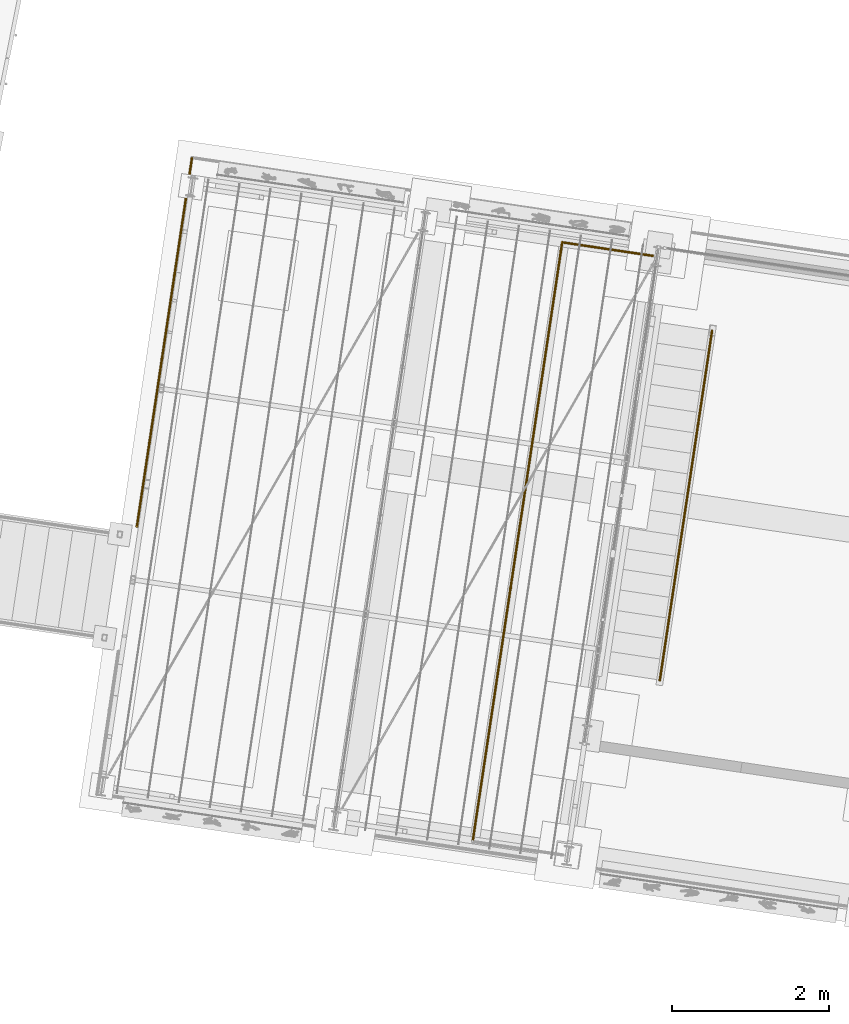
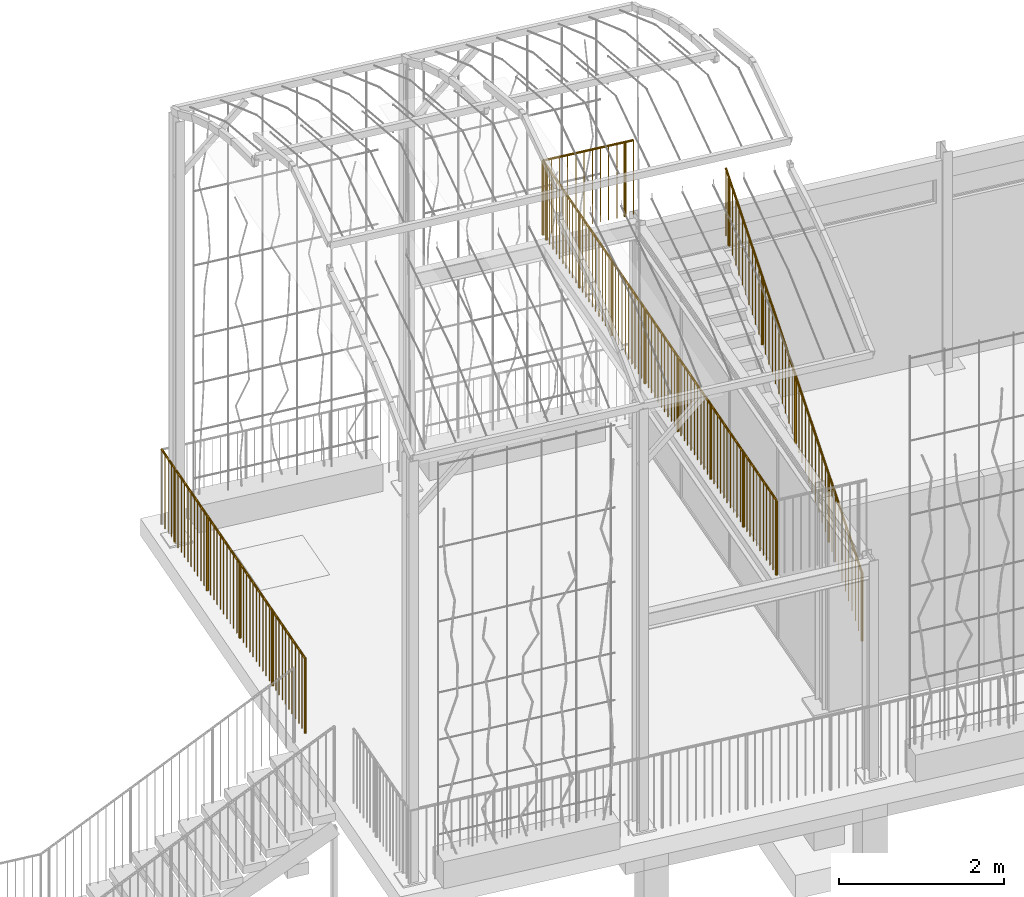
# One storey, part 138 of 142: 4 railings, 3 elements without a shape of their own.
"""IFC4 building model written with IfcOpenShell, lengths in metres."""

from ifc_helpers import new_model, si_unit, direction, frame, origin_with_axes, place, context, subcontext, project, spatial, circle, extrude, material, element, aggregate, save


model = new_model("IFC4")

# Units and contexts
model_context = context("Model", 3, precision=1e-05, world=origin_with_axes(), true_north=direction((0.0, 1.0)))
body_context = subcontext(model_context, "Body", "Model", "MODEL_VIEW")
ifc_project = project(units=[si_unit("AREAUNIT", "SQUARE_METRE"), si_unit("VOLUMEUNIT", "CUBIC_METRE"), si_unit("LENGTHUNIT", "METRE")], contexts=[model_context])

# Site, building, storey
site_placement = place(None, origin_with_axes())
site = spatial("IfcSite", under=ifc_project, at=site_placement, Name="Lares · Rua das Mercês · artigo 4771")
building_placement = place(site_placement, frame((15.0, 9.7, 14.65), z_axis=(0.0, 0.0, 1.0), x_axis=(0.989015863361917, -0.147809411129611, 0.0)))
building = spatial("IfcBuilding", under=site, at=building_placement, Name="Casa Sobreposta")
storey_placement = place(building_placement, origin_with_axes())
storey = spatial("IfcBuildingStorey", under=building, at=storey_placement, Name="00 · Habitação e estacionamento", Elevation=14.65)

# Stair, railing
stair_placement = place(storey_placement, origin_with_axes())
stair = element("IfcStair", 1, at=stair_placement, inside=storey, Name="Escada sala", PredefinedType="STRAIGHT_RUN_STAIR")
ifc_material = material(Name="Aço pintado / Stahl lackiert", Category="steel")
railing_1_placement = place(stair_placement, origin_with_axes())
railing_1 = element("IfcRailing", 2, at=railing_1_placement, material=ifc_material, Name="Corrimão sala", PredefinedType="GUARDRAIL", context=body_context, shape_type="SweptSolid", body=[
    extrude(circle(Radius=0.015), frame((0.83, 0.9475, 1.18), z_axis=(0.0, 0.827216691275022, 0.561883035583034), x_axis=(1.0, 0.0, 0.0)), (0.0, 0.0, 1.0), 5.44597328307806),
    extrude(circle(Radius=0.0175), frame((0.83, 0.9475, 0.18), z_axis=(0.0, 0.0, 1.0), x_axis=(1.0, 0.0, 0.0)), (0.0, 0.0, 1.0), 1.0),
    extrude(circle(Radius=0.006), frame((0.83, 1.05737804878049, 0.254634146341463), z_axis=(0.0, 0.0, 1.0), x_axis=(1.0, 0.0, 0.0)), (0.0, 0.0, 1.0), 1.0),
    extrude(circle(Radius=0.006), frame((0.83, 1.16725609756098, 0.329268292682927), z_axis=(0.0, 0.0, 1.0), x_axis=(1.0, 0.0, 0.0)), (0.0, 0.0, 1.0), 1.0),
    extrude(circle(Radius=0.006), frame((0.83, 1.27713414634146, 0.40390243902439), z_axis=(0.0, 0.0, 1.0), x_axis=(1.0, 0.0, 0.0)), (0.0, 0.0, 1.0), 1.0),
    extrude(circle(Radius=0.006), frame((0.83, 1.38701219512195, 0.478536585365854), z_axis=(0.0, 0.0, 1.0), x_axis=(1.0, 0.0, 0.0)), (0.0, 0.0, 1.0), 1.0),
    extrude(circle(Radius=0.006), frame((0.83, 1.49689024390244, 0.553170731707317), z_axis=(0.0, 0.0, 1.0), x_axis=(1.0, 0.0, 0.0)), (0.0, 0.0, 1.0), 1.0),
    extrude(circle(Radius=0.006), frame((0.83, 1.60676829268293, 0.62780487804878), z_axis=(0.0, 0.0, 1.0), x_axis=(1.0, 0.0, 0.0)), (0.0, 0.0, 1.0), 1.0),
    extrude(circle(Radius=0.006), frame((0.83, 1.71664634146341, 0.702439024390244), z_axis=(0.0, 0.0, 1.0), x_axis=(1.0, 0.0, 0.0)), (0.0, 0.0, 1.0), 1.0),
    extrude(circle(Radius=0.006), frame((0.83, 1.8265243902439, 0.777073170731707), z_axis=(0.0, 0.0, 1.0), x_axis=(1.0, 0.0, 0.0)), (0.0, 0.0, 1.0), 1.0),
    extrude(circle(Radius=0.006), frame((0.83, 1.93640243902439, 0.851707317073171), z_axis=(0.0, 0.0, 1.0), x_axis=(1.0, 0.0, 0.0)), (0.0, 0.0, 1.0), 1.0),
    extrude(circle(Radius=0.0175), frame((0.83, 2.04628048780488, 0.926341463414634), z_axis=(0.0, 0.0, 1.0), x_axis=(1.0, 0.0, 0.0)), (0.0, 0.0, 1.0), 1.0),
    extrude(circle(Radius=0.006), frame((0.83, 2.15615853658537, 1.0009756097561), z_axis=(0.0, 0.0, 1.0), x_axis=(1.0, 0.0, 0.0)), (0.0, 0.0, 1.0), 1.0),
    extrude(circle(Radius=0.006), frame((0.83, 2.26603658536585, 1.07560975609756), z_axis=(0.0, 0.0, 1.0), x_axis=(1.0, 0.0, 0.0)), (0.0, 0.0, 1.0), 1.0),
    extrude(circle(Radius=0.006), frame((0.83, 2.37591463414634, 1.15024390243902), z_axis=(0.0, 0.0, 1.0), x_axis=(1.0, 0.0, 0.0)), (0.0, 0.0, 1.0), 1.0),
    extrude(circle(Radius=0.006), frame((0.83, 2.48579268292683, 1.22487804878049), z_axis=(0.0, 0.0, 1.0), x_axis=(1.0, 0.0, 0.0)), (0.0, 0.0, 1.0), 1.0),
    extrude(circle(Radius=0.006), frame((0.83, 2.59567073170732, 1.29951219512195), z_axis=(0.0, 0.0, 1.0), x_axis=(1.0, 0.0, 0.0)), (0.0, 0.0, 1.0), 1.0),
    extrude(circle(Radius=0.006), frame((0.83, 2.7055487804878, 1.37414634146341), z_axis=(0.0, 0.0, 1.0), x_axis=(1.0, 0.0, 0.0)), (0.0, 0.0, 1.0), 1.0),
    extrude(circle(Radius=0.006), frame((0.83, 2.81542682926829, 1.44878048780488), z_axis=(0.0, 0.0, 1.0), x_axis=(1.0, 0.0, 0.0)), (0.0, 0.0, 1.0), 1.0),
    extrude(circle(Radius=0.006), frame((0.83, 2.92530487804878, 1.52341463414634), z_axis=(0.0, 0.0, 1.0), x_axis=(1.0, 0.0, 0.0)), (0.0, 0.0, 1.0), 1.0),
    extrude(circle(Radius=0.006), frame((0.83, 3.03518292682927, 1.5980487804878), z_axis=(0.0, 0.0, 1.0), x_axis=(1.0, 0.0, 0.0)), (0.0, 0.0, 1.0), 1.0),
    extrude(circle(Radius=0.0175), frame((0.83, 3.14506097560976, 1.67268292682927), z_axis=(0.0, 0.0, 1.0), x_axis=(1.0, 0.0, 0.0)), (0.0, 0.0, 1.0), 1.0),
    extrude(circle(Radius=0.006), frame((0.83, 3.25493902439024, 1.74731707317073), z_axis=(0.0, 0.0, 1.0), x_axis=(1.0, 0.0, 0.0)), (0.0, 0.0, 1.0), 1.0),
    extrude(circle(Radius=0.006), frame((0.83, 3.36481707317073, 1.8219512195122), z_axis=(0.0, 0.0, 1.0), x_axis=(1.0, 0.0, 0.0)), (0.0, 0.0, 1.0), 1.0),
    extrude(circle(Radius=0.006), frame((0.83, 3.47469512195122, 1.89658536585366), z_axis=(0.0, 0.0, 1.0), x_axis=(1.0, 0.0, 0.0)), (0.0, 0.0, 1.0), 1.0),
    extrude(circle(Radius=0.006), frame((0.83, 3.58457317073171, 1.97121951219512), z_axis=(0.0, 0.0, 1.0), x_axis=(1.0, 0.0, 0.0)), (0.0, 0.0, 1.0), 1.0),
    extrude(circle(Radius=0.006), frame((0.83, 3.6944512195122, 2.04585365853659), z_axis=(0.0, 0.0, 1.0), x_axis=(1.0, 0.0, 0.0)), (0.0, 0.0, 1.0), 1.0),
    extrude(circle(Radius=0.006), frame((0.83, 3.80432926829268, 2.12048780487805), z_axis=(0.0, 0.0, 1.0), x_axis=(1.0, 0.0, 0.0)), (0.0, 0.0, 1.0), 1.0),
    extrude(circle(Radius=0.006), frame((0.83, 3.91420731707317, 2.19512195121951), z_axis=(0.0, 0.0, 1.0), x_axis=(1.0, 0.0, 0.0)), (0.0, 0.0, 1.0), 1.0),
    extrude(circle(Radius=0.006), frame((0.83, 4.02408536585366, 2.26975609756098), z_axis=(0.0, 0.0, 1.0), x_axis=(1.0, 0.0, 0.0)), (0.0, 0.0, 1.0), 1.0),
    extrude(circle(Radius=0.006), frame((0.83, 4.13396341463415, 2.34439024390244), z_axis=(0.0, 0.0, 1.0), x_axis=(1.0, 0.0, 0.0)), (0.0, 0.0, 1.0), 1.0),
    extrude(circle(Radius=0.0175), frame((0.83, 4.24384146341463, 2.4190243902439), z_axis=(0.0, 0.0, 1.0), x_axis=(1.0, 0.0, 0.0)), (0.0, 0.0, 1.0), 1.0),
    extrude(circle(Radius=0.006), frame((0.83, 4.35371951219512, 2.49365853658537), z_axis=(0.0, 0.0, 1.0), x_axis=(1.0, 0.0, 0.0)), (0.0, 0.0, 1.0), 1.0),
    extrude(circle(Radius=0.006), frame((0.83, 4.46359756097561, 2.56829268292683), z_axis=(0.0, 0.0, 1.0), x_axis=(1.0, 0.0, 0.0)), (0.0, 0.0, 1.0), 1.0),
    extrude(circle(Radius=0.006), frame((0.83, 4.5734756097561, 2.64292682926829), z_axis=(0.0, 0.0, 1.0), x_axis=(1.0, 0.0, 0.0)), (0.0, 0.0, 1.0), 1.0),
    extrude(circle(Radius=0.006), frame((0.83, 4.68335365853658, 2.71756097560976), z_axis=(0.0, 0.0, 1.0), x_axis=(1.0, 0.0, 0.0)), (0.0, 0.0, 1.0), 1.0),
    extrude(circle(Radius=0.006), frame((0.83, 4.79323170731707, 2.79219512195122), z_axis=(0.0, 0.0, 1.0), x_axis=(1.0, 0.0, 0.0)), (0.0, 0.0, 1.0), 1.0),
    extrude(circle(Radius=0.006), frame((0.83, 4.90310975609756, 2.86682926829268), z_axis=(0.0, 0.0, 1.0), x_axis=(1.0, 0.0, 0.0)), (0.0, 0.0, 1.0), 1.0),
    extrude(circle(Radius=0.006), frame((0.83, 5.01298780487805, 2.94146341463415), z_axis=(0.0, 0.0, 1.0), x_axis=(1.0, 0.0, 0.0)), (0.0, 0.0, 1.0), 1.0),
    extrude(circle(Radius=0.006), frame((0.83, 5.12286585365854, 3.01609756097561), z_axis=(0.0, 0.0, 1.0), x_axis=(1.0, 0.0, 0.0)), (0.0, 0.0, 1.0), 1.0),
    extrude(circle(Radius=0.006), frame((0.83, 5.23274390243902, 3.09073170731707), z_axis=(0.0, 0.0, 1.0), x_axis=(1.0, 0.0, 0.0)), (0.0, 0.0, 1.0), 1.0),
    extrude(circle(Radius=0.0175), frame((0.83, 5.34262195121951, 3.16536585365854), z_axis=(0.0, 0.0, 1.0), x_axis=(1.0, 0.0, 0.0)), (0.0, 0.0, 1.0), 1.0),
    extrude(circle(Radius=0.006), frame((0.83, 5.4525, 3.24), z_axis=(0.0, 0.0, 1.0), x_axis=(1.0, 0.0, 0.0)), (0.0, 0.0, 1.0), 1.0),
])
aggregate(stair, [railing_1])

# Assembly, railing
assembly_1_placement = place(storey_placement, origin_with_axes())
assembly_1 = element("IfcElementAssembly", 3, at=assembly_1_placement, inside=storey, Name="Pódio · terraço, casa térrea e cisterna", ObjectType="CISTERN_PODIUM", PredefinedType="USERDEFINED")
railing_2_placement = place(assembly_1_placement, origin_with_axes())
railing_2 = element("IfcRailing", 4, at=railing_2_placement, material=ifc_material, Name="Pódio · guarda poente norte", PredefinedType="GUARDRAIL", context=body_context, shape_type="SweptSolid", body=[
    extrude(circle(Radius=0.015), frame((-6.05, 1.9, 1.06), z_axis=(0.0, 1.0, 0.0), x_axis=(1.0, 0.0, 0.0)), (0.0, 0.0, 1.0), 4.75),
    extrude(circle(Radius=0.0175), frame((-6.05, 1.9, -0.04), z_axis=(0.0, 0.0, 1.0), x_axis=(1.0, 0.0, 0.0)), (0.0, 0.0, 1.0), 1.1),
    extrude(circle(Radius=0.006), frame((-6.05, 2.00795454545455, -0.04), z_axis=(0.0, 0.0, 1.0), x_axis=(1.0, 0.0, 0.0)), (0.0, 0.0, 1.0), 1.1),
    extrude(circle(Radius=0.006), frame((-6.05, 2.11590909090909, -0.04), z_axis=(0.0, 0.0, 1.0), x_axis=(1.0, 0.0, 0.0)), (0.0, 0.0, 1.0), 1.1),
    extrude(circle(Radius=0.006), frame((-6.05, 2.22386363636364, -0.04), z_axis=(0.0, 0.0, 1.0), x_axis=(1.0, 0.0, 0.0)), (0.0, 0.0, 1.0), 1.1),
    extrude(circle(Radius=0.006), frame((-6.05, 2.33181818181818, -0.04), z_axis=(0.0, 0.0, 1.0), x_axis=(1.0, 0.0, 0.0)), (0.0, 0.0, 1.0), 1.1),
    extrude(circle(Radius=0.006), frame((-6.05, 2.43977272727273, -0.04), z_axis=(0.0, 0.0, 1.0), x_axis=(1.0, 0.0, 0.0)), (0.0, 0.0, 1.0), 1.1),
    extrude(circle(Radius=0.006), frame((-6.05, 2.54772727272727, -0.04), z_axis=(0.0, 0.0, 1.0), x_axis=(1.0, 0.0, 0.0)), (0.0, 0.0, 1.0), 1.1),
    extrude(circle(Radius=0.006), frame((-6.05, 2.65568181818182, -0.04), z_axis=(0.0, 0.0, 1.0), x_axis=(1.0, 0.0, 0.0)), (0.0, 0.0, 1.0), 1.1),
    extrude(circle(Radius=0.006), frame((-6.05, 2.76363636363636, -0.04), z_axis=(0.0, 0.0, 1.0), x_axis=(1.0, 0.0, 0.0)), (0.0, 0.0, 1.0), 1.1),
    extrude(circle(Radius=0.006), frame((-6.05, 2.87159090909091, -0.04), z_axis=(0.0, 0.0, 1.0), x_axis=(1.0, 0.0, 0.0)), (0.0, 0.0, 1.0), 1.1),
    extrude(circle(Radius=0.0175), frame((-6.05, 2.97954545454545, -0.04), z_axis=(0.0, 0.0, 1.0), x_axis=(1.0, 0.0, 0.0)), (0.0, 0.0, 1.0), 1.1),
    extrude(circle(Radius=0.006), frame((-6.05, 3.0875, -0.04), z_axis=(0.0, 0.0, 1.0), x_axis=(1.0, 0.0, 0.0)), (0.0, 0.0, 1.0), 1.1),
    extrude(circle(Radius=0.006), frame((-6.05, 3.19545454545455, -0.04), z_axis=(0.0, 0.0, 1.0), x_axis=(1.0, 0.0, 0.0)), (0.0, 0.0, 1.0), 1.1),
    extrude(circle(Radius=0.006), frame((-6.05, 3.30340909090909, -0.04), z_axis=(0.0, 0.0, 1.0), x_axis=(1.0, 0.0, 0.0)), (0.0, 0.0, 1.0), 1.1),
    extrude(circle(Radius=0.006), frame((-6.05, 3.41136363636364, -0.04), z_axis=(0.0, 0.0, 1.0), x_axis=(1.0, 0.0, 0.0)), (0.0, 0.0, 1.0), 1.1),
    extrude(circle(Radius=0.006), frame((-6.05, 3.51931818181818, -0.04), z_axis=(0.0, 0.0, 1.0), x_axis=(1.0, 0.0, 0.0)), (0.0, 0.0, 1.0), 1.1),
    extrude(circle(Radius=0.006), frame((-6.05, 3.62727272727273, -0.04), z_axis=(0.0, 0.0, 1.0), x_axis=(1.0, 0.0, 0.0)), (0.0, 0.0, 1.0), 1.1),
    extrude(circle(Radius=0.006), frame((-6.05, 3.73522727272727, -0.04), z_axis=(0.0, 0.0, 1.0), x_axis=(1.0, 0.0, 0.0)), (0.0, 0.0, 1.0), 1.1),
    extrude(circle(Radius=0.006), frame((-6.05, 3.84318181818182, -0.04), z_axis=(0.0, 0.0, 1.0), x_axis=(1.0, 0.0, 0.0)), (0.0, 0.0, 1.0), 1.1),
    extrude(circle(Radius=0.006), frame((-6.05, 3.95113636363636, -0.04), z_axis=(0.0, 0.0, 1.0), x_axis=(1.0, 0.0, 0.0)), (0.0, 0.0, 1.0), 1.1),
    extrude(circle(Radius=0.0175), frame((-6.05, 4.05909090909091, -0.04), z_axis=(0.0, 0.0, 1.0), x_axis=(1.0, 0.0, 0.0)), (0.0, 0.0, 1.0), 1.1),
    extrude(circle(Radius=0.006), frame((-6.05, 4.16704545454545, -0.04), z_axis=(0.0, 0.0, 1.0), x_axis=(1.0, 0.0, 0.0)), (0.0, 0.0, 1.0), 1.1),
    extrude(circle(Radius=0.006), frame((-6.05, 4.275, -0.04), z_axis=(0.0, 0.0, 1.0), x_axis=(1.0, 0.0, 0.0)), (0.0, 0.0, 1.0), 1.1),
    extrude(circle(Radius=0.006), frame((-6.05, 4.38295454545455, -0.04), z_axis=(0.0, 0.0, 1.0), x_axis=(1.0, 0.0, 0.0)), (0.0, 0.0, 1.0), 1.1),
    extrude(circle(Radius=0.006), frame((-6.05, 4.49090909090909, -0.04), z_axis=(0.0, 0.0, 1.0), x_axis=(1.0, 0.0, 0.0)), (0.0, 0.0, 1.0), 1.1),
    extrude(circle(Radius=0.006), frame((-6.05, 4.59886363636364, -0.04), z_axis=(0.0, 0.0, 1.0), x_axis=(1.0, 0.0, 0.0)), (0.0, 0.0, 1.0), 1.1),
    extrude(circle(Radius=0.006), frame((-6.05, 4.70681818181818, -0.04), z_axis=(0.0, 0.0, 1.0), x_axis=(1.0, 0.0, 0.0)), (0.0, 0.0, 1.0), 1.1),
    extrude(circle(Radius=0.006), frame((-6.05, 4.81477272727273, -0.04), z_axis=(0.0, 0.0, 1.0), x_axis=(1.0, 0.0, 0.0)), (0.0, 0.0, 1.0), 1.1),
    extrude(circle(Radius=0.006), frame((-6.05, 4.92272727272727, -0.04), z_axis=(0.0, 0.0, 1.0), x_axis=(1.0, 0.0, 0.0)), (0.0, 0.0, 1.0), 1.1),
    extrude(circle(Radius=0.006), frame((-6.05, 5.03068181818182, -0.04), z_axis=(0.0, 0.0, 1.0), x_axis=(1.0, 0.0, 0.0)), (0.0, 0.0, 1.0), 1.1),
    extrude(circle(Radius=0.0175), frame((-6.05, 5.13863636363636, -0.04), z_axis=(0.0, 0.0, 1.0), x_axis=(1.0, 0.0, 0.0)), (0.0, 0.0, 1.0), 1.1),
    extrude(circle(Radius=0.006), frame((-6.05, 5.24659090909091, -0.04), z_axis=(0.0, 0.0, 1.0), x_axis=(1.0, 0.0, 0.0)), (0.0, 0.0, 1.0), 1.1),
    extrude(circle(Radius=0.006), frame((-6.05, 5.35454545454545, -0.04), z_axis=(0.0, 0.0, 1.0), x_axis=(1.0, 0.0, 0.0)), (0.0, 0.0, 1.0), 1.1),
    extrude(circle(Radius=0.006), frame((-6.05, 5.4625, -0.04), z_axis=(0.0, 0.0, 1.0), x_axis=(1.0, 0.0, 0.0)), (0.0, 0.0, 1.0), 1.1),
    extrude(circle(Radius=0.006), frame((-6.05, 5.57045454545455, -0.04), z_axis=(0.0, 0.0, 1.0), x_axis=(1.0, 0.0, 0.0)), (0.0, 0.0, 1.0), 1.1),
    extrude(circle(Radius=0.006), frame((-6.05, 5.67840909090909, -0.04), z_axis=(0.0, 0.0, 1.0), x_axis=(1.0, 0.0, 0.0)), (0.0, 0.0, 1.0), 1.1),
    extrude(circle(Radius=0.006), frame((-6.05, 5.78636363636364, -0.04), z_axis=(0.0, 0.0, 1.0), x_axis=(1.0, 0.0, 0.0)), (0.0, 0.0, 1.0), 1.1),
    extrude(circle(Radius=0.006), frame((-6.05, 5.89431818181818, -0.04), z_axis=(0.0, 0.0, 1.0), x_axis=(1.0, 0.0, 0.0)), (0.0, 0.0, 1.0), 1.1),
    extrude(circle(Radius=0.006), frame((-6.05, 6.00227272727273, -0.04), z_axis=(0.0, 0.0, 1.0), x_axis=(1.0, 0.0, 0.0)), (0.0, 0.0, 1.0), 1.1),
    extrude(circle(Radius=0.006), frame((-6.05, 6.11022727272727, -0.04), z_axis=(0.0, 0.0, 1.0), x_axis=(1.0, 0.0, 0.0)), (0.0, 0.0, 1.0), 1.1),
    extrude(circle(Radius=0.0175), frame((-6.05, 6.21818181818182, -0.04), z_axis=(0.0, 0.0, 1.0), x_axis=(1.0, 0.0, 0.0)), (0.0, 0.0, 1.0), 1.1),
    extrude(circle(Radius=0.006), frame((-6.05, 6.32613636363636, -0.04), z_axis=(0.0, 0.0, 1.0), x_axis=(1.0, 0.0, 0.0)), (0.0, 0.0, 1.0), 1.1),
    extrude(circle(Radius=0.006), frame((-6.05, 6.43409090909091, -0.04), z_axis=(0.0, 0.0, 1.0), x_axis=(1.0, 0.0, 0.0)), (0.0, 0.0, 1.0), 1.1),
    extrude(circle(Radius=0.006), frame((-6.05, 6.54204545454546, -0.04), z_axis=(0.0, 0.0, 1.0), x_axis=(1.0, 0.0, 0.0)), (0.0, 0.0, 1.0), 1.1),
    extrude(circle(Radius=0.006), frame((-6.05, 6.65, -0.04), z_axis=(0.0, 0.0, 1.0), x_axis=(1.0, 0.0, 0.0)), (0.0, 0.0, 1.0), 1.1),
])
aggregate(assembly_1, [railing_2])

# Assembly, railings
assembly_2_placement = place(storey_placement, origin_with_axes())
assembly_2 = element("IfcElementAssembly", 5, at=assembly_2_placement, inside=storey, Name="Pérgola · prolongamento da estufa 6 m", ObjectType="PERGOLA_GREENHOUSE_EXTENSION", PredefinedType="USERDEFINED")
railing_3_placement = place(assembly_2_placement, origin_with_axes())
railing_3 = element("IfcRailing", 6, at=railing_3_placement, material=ifc_material, Name="Varanda · guarda", PredefinedType="GUARDRAIL", context=body_context, shape_type="SweptSolid", body=[
    extrude(circle(Radius=0.015), frame((-1.225, -1.44, 4.34), z_axis=(0.0, 1.0, 0.0), x_axis=(1.0, 0.0, 0.0)), (0.0, 0.0, 1.0), 7.72),
    extrude(circle(Radius=0.0175), frame((-1.225, -1.44, 3.24), z_axis=(0.0, 0.0, 1.0), x_axis=(1.0, 0.0, 0.0)), (0.0, 0.0, 1.0), 1.1),
    extrude(circle(Radius=0.006), frame((-1.225, -1.3312676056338, 3.24), z_axis=(0.0, 0.0, 1.0), x_axis=(1.0, 0.0, 0.0)), (0.0, 0.0, 1.0), 1.1),
    extrude(circle(Radius=0.006), frame((-1.225, -1.22253521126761, 3.24), z_axis=(0.0, 0.0, 1.0), x_axis=(1.0, 0.0, 0.0)), (0.0, 0.0, 1.0), 1.1),
    extrude(circle(Radius=0.006), frame((-1.225, -1.11380281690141, 3.24), z_axis=(0.0, 0.0, 1.0), x_axis=(1.0, 0.0, 0.0)), (0.0, 0.0, 1.0), 1.1),
    extrude(circle(Radius=0.006), frame((-1.225, -1.00507042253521, 3.24), z_axis=(0.0, 0.0, 1.0), x_axis=(1.0, 0.0, 0.0)), (0.0, 0.0, 1.0), 1.1),
    extrude(circle(Radius=0.006), frame((-1.225, -0.896338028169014, 3.24), z_axis=(0.0, 0.0, 1.0), x_axis=(1.0, 0.0, 0.0)), (0.0, 0.0, 1.0), 1.1),
    extrude(circle(Radius=0.006), frame((-1.225, -0.787605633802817, 3.24), z_axis=(0.0, 0.0, 1.0), x_axis=(1.0, 0.0, 0.0)), (0.0, 0.0, 1.0), 1.1),
    extrude(circle(Radius=0.006), frame((-1.225, -0.67887323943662, 3.24), z_axis=(0.0, 0.0, 1.0), x_axis=(1.0, 0.0, 0.0)), (0.0, 0.0, 1.0), 1.1),
    extrude(circle(Radius=0.006), frame((-1.225, -0.570140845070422, 3.24), z_axis=(0.0, 0.0, 1.0), x_axis=(1.0, 0.0, 0.0)), (0.0, 0.0, 1.0), 1.1),
    extrude(circle(Radius=0.006), frame((-1.225, -0.461408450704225, 3.24), z_axis=(0.0, 0.0, 1.0), x_axis=(1.0, 0.0, 0.0)), (0.0, 0.0, 1.0), 1.1),
    extrude(circle(Radius=0.0175), frame((-1.225, -0.352676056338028, 3.24), z_axis=(0.0, 0.0, 1.0), x_axis=(1.0, 0.0, 0.0)), (0.0, 0.0, 1.0), 1.1),
    extrude(circle(Radius=0.006), frame((-1.225, -0.243943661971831, 3.24), z_axis=(0.0, 0.0, 1.0), x_axis=(1.0, 0.0, 0.0)), (0.0, 0.0, 1.0), 1.1),
    extrude(circle(Radius=0.006), frame((-1.225, -0.135211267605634, 3.24), z_axis=(0.0, 0.0, 1.0), x_axis=(1.0, 0.0, 0.0)), (0.0, 0.0, 1.0), 1.1),
    extrude(circle(Radius=0.006), frame((-1.225, -0.0264788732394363, 3.24), z_axis=(0.0, 0.0, 1.0), x_axis=(1.0, 0.0, 0.0)), (0.0, 0.0, 1.0), 1.1),
    extrude(circle(Radius=0.006), frame((-1.225, 0.0822535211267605, 3.24), z_axis=(0.0, 0.0, 1.0), x_axis=(1.0, 0.0, 0.0)), (0.0, 0.0, 1.0), 1.1),
    extrude(circle(Radius=0.006), frame((-1.225, 0.190985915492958, 3.24), z_axis=(0.0, 0.0, 1.0), x_axis=(1.0, 0.0, 0.0)), (0.0, 0.0, 1.0), 1.1),
    extrude(circle(Radius=0.006), frame((-1.225, 0.299718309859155, 3.24), z_axis=(0.0, 0.0, 1.0), x_axis=(1.0, 0.0, 0.0)), (0.0, 0.0, 1.0), 1.1),
    extrude(circle(Radius=0.006), frame((-1.225, 0.408450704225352, 3.24), z_axis=(0.0, 0.0, 1.0), x_axis=(1.0, 0.0, 0.0)), (0.0, 0.0, 1.0), 1.1),
    extrude(circle(Radius=0.006), frame((-1.225, 0.51718309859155, 3.24), z_axis=(0.0, 0.0, 1.0), x_axis=(1.0, 0.0, 0.0)), (0.0, 0.0, 1.0), 1.1),
    extrude(circle(Radius=0.006), frame((-1.225, 0.625915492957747, 3.24), z_axis=(0.0, 0.0, 1.0), x_axis=(1.0, 0.0, 0.0)), (0.0, 0.0, 1.0), 1.1),
    extrude(circle(Radius=0.0175), frame((-1.225, 0.734647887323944, 3.24), z_axis=(0.0, 0.0, 1.0), x_axis=(1.0, 0.0, 0.0)), (0.0, 0.0, 1.0), 1.1),
    extrude(circle(Radius=0.006), frame((-1.225, 0.843380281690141, 3.24), z_axis=(0.0, 0.0, 1.0), x_axis=(1.0, 0.0, 0.0)), (0.0, 0.0, 1.0), 1.1),
    extrude(circle(Radius=0.006), frame((-1.225, 0.952112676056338, 3.24), z_axis=(0.0, 0.0, 1.0), x_axis=(1.0, 0.0, 0.0)), (0.0, 0.0, 1.0), 1.1),
    extrude(circle(Radius=0.006), frame((-1.225, 1.06084507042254, 3.24), z_axis=(0.0, 0.0, 1.0), x_axis=(1.0, 0.0, 0.0)), (0.0, 0.0, 1.0), 1.1),
    extrude(circle(Radius=0.006), frame((-1.225, 1.16957746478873, 3.24), z_axis=(0.0, 0.0, 1.0), x_axis=(1.0, 0.0, 0.0)), (0.0, 0.0, 1.0), 1.1),
    extrude(circle(Radius=0.006), frame((-1.225, 1.27830985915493, 3.24), z_axis=(0.0, 0.0, 1.0), x_axis=(1.0, 0.0, 0.0)), (0.0, 0.0, 1.0), 1.1),
    extrude(circle(Radius=0.006), frame((-1.225, 1.38704225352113, 3.24), z_axis=(0.0, 0.0, 1.0), x_axis=(1.0, 0.0, 0.0)), (0.0, 0.0, 1.0), 1.1),
    extrude(circle(Radius=0.006), frame((-1.225, 1.49577464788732, 3.24), z_axis=(0.0, 0.0, 1.0), x_axis=(1.0, 0.0, 0.0)), (0.0, 0.0, 1.0), 1.1),
    extrude(circle(Radius=0.006), frame((-1.225, 1.60450704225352, 3.24), z_axis=(0.0, 0.0, 1.0), x_axis=(1.0, 0.0, 0.0)), (0.0, 0.0, 1.0), 1.1),
    extrude(circle(Radius=0.006), frame((-1.225, 1.71323943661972, 3.24), z_axis=(0.0, 0.0, 1.0), x_axis=(1.0, 0.0, 0.0)), (0.0, 0.0, 1.0), 1.1),
    extrude(circle(Radius=0.0175), frame((-1.225, 1.82197183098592, 3.24), z_axis=(0.0, 0.0, 1.0), x_axis=(1.0, 0.0, 0.0)), (0.0, 0.0, 1.0), 1.1),
    extrude(circle(Radius=0.006), frame((-1.225, 1.93070422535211, 3.24), z_axis=(0.0, 0.0, 1.0), x_axis=(1.0, 0.0, 0.0)), (0.0, 0.0, 1.0), 1.1),
    extrude(circle(Radius=0.006), frame((-1.225, 2.03943661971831, 3.24), z_axis=(0.0, 0.0, 1.0), x_axis=(1.0, 0.0, 0.0)), (0.0, 0.0, 1.0), 1.1),
    extrude(circle(Radius=0.006), frame((-1.225, 2.14816901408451, 3.24), z_axis=(0.0, 0.0, 1.0), x_axis=(1.0, 0.0, 0.0)), (0.0, 0.0, 1.0), 1.1),
    extrude(circle(Radius=0.006), frame((-1.225, 2.2569014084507, 3.24), z_axis=(0.0, 0.0, 1.0), x_axis=(1.0, 0.0, 0.0)), (0.0, 0.0, 1.0), 1.1),
    extrude(circle(Radius=0.006), frame((-1.225, 2.3656338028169, 3.24), z_axis=(0.0, 0.0, 1.0), x_axis=(1.0, 0.0, 0.0)), (0.0, 0.0, 1.0), 1.1),
    extrude(circle(Radius=0.006), frame((-1.225, 2.4743661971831, 3.24), z_axis=(0.0, 0.0, 1.0), x_axis=(1.0, 0.0, 0.0)), (0.0, 0.0, 1.0), 1.1),
    extrude(circle(Radius=0.006), frame((-1.225, 2.5830985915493, 3.24), z_axis=(0.0, 0.0, 1.0), x_axis=(1.0, 0.0, 0.0)), (0.0, 0.0, 1.0), 1.1),
    extrude(circle(Radius=0.006), frame((-1.225, 2.69183098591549, 3.24), z_axis=(0.0, 0.0, 1.0), x_axis=(1.0, 0.0, 0.0)), (0.0, 0.0, 1.0), 1.1),
    extrude(circle(Radius=0.006), frame((-1.225, 2.80056338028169, 3.24), z_axis=(0.0, 0.0, 1.0), x_axis=(1.0, 0.0, 0.0)), (0.0, 0.0, 1.0), 1.1),
    extrude(circle(Radius=0.0175), frame((-1.225, 2.90929577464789, 3.24), z_axis=(0.0, 0.0, 1.0), x_axis=(1.0, 0.0, 0.0)), (0.0, 0.0, 1.0), 1.1),
    extrude(circle(Radius=0.006), frame((-1.225, 3.01802816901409, 3.24), z_axis=(0.0, 0.0, 1.0), x_axis=(1.0, 0.0, 0.0)), (0.0, 0.0, 1.0), 1.1),
    extrude(circle(Radius=0.006), frame((-1.225, 3.12676056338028, 3.24), z_axis=(0.0, 0.0, 1.0), x_axis=(1.0, 0.0, 0.0)), (0.0, 0.0, 1.0), 1.1),
    extrude(circle(Radius=0.006), frame((-1.225, 3.23549295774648, 3.24), z_axis=(0.0, 0.0, 1.0), x_axis=(1.0, 0.0, 0.0)), (0.0, 0.0, 1.0), 1.1),
    extrude(circle(Radius=0.006), frame((-1.225, 3.34422535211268, 3.24), z_axis=(0.0, 0.0, 1.0), x_axis=(1.0, 0.0, 0.0)), (0.0, 0.0, 1.0), 1.1),
    extrude(circle(Radius=0.006), frame((-1.225, 3.45295774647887, 3.24), z_axis=(0.0, 0.0, 1.0), x_axis=(1.0, 0.0, 0.0)), (0.0, 0.0, 1.0), 1.1),
    extrude(circle(Radius=0.006), frame((-1.225, 3.56169014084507, 3.24), z_axis=(0.0, 0.0, 1.0), x_axis=(1.0, 0.0, 0.0)), (0.0, 0.0, 1.0), 1.1),
    extrude(circle(Radius=0.006), frame((-1.225, 3.67042253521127, 3.24), z_axis=(0.0, 0.0, 1.0), x_axis=(1.0, 0.0, 0.0)), (0.0, 0.0, 1.0), 1.1),
    extrude(circle(Radius=0.006), frame((-1.225, 3.77915492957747, 3.24), z_axis=(0.0, 0.0, 1.0), x_axis=(1.0, 0.0, 0.0)), (0.0, 0.0, 1.0), 1.1),
    extrude(circle(Radius=0.006), frame((-1.225, 3.88788732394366, 3.24), z_axis=(0.0, 0.0, 1.0), x_axis=(1.0, 0.0, 0.0)), (0.0, 0.0, 1.0), 1.1),
    extrude(circle(Radius=0.0175), frame((-1.225, 3.99661971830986, 3.24), z_axis=(0.0, 0.0, 1.0), x_axis=(1.0, 0.0, 0.0)), (0.0, 0.0, 1.0), 1.1),
    extrude(circle(Radius=0.006), frame((-1.225, 4.10535211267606, 3.24), z_axis=(0.0, 0.0, 1.0), x_axis=(1.0, 0.0, 0.0)), (0.0, 0.0, 1.0), 1.1),
    extrude(circle(Radius=0.006), frame((-1.225, 4.21408450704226, 3.24), z_axis=(0.0, 0.0, 1.0), x_axis=(1.0, 0.0, 0.0)), (0.0, 0.0, 1.0), 1.1),
    extrude(circle(Radius=0.006), frame((-1.225, 4.32281690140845, 3.24), z_axis=(0.0, 0.0, 1.0), x_axis=(1.0, 0.0, 0.0)), (0.0, 0.0, 1.0), 1.1),
    extrude(circle(Radius=0.006), frame((-1.225, 4.43154929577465, 3.24), z_axis=(0.0, 0.0, 1.0), x_axis=(1.0, 0.0, 0.0)), (0.0, 0.0, 1.0), 1.1),
    extrude(circle(Radius=0.006), frame((-1.225, 4.54028169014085, 3.24), z_axis=(0.0, 0.0, 1.0), x_axis=(1.0, 0.0, 0.0)), (0.0, 0.0, 1.0), 1.1),
    extrude(circle(Radius=0.006), frame((-1.225, 4.64901408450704, 3.24), z_axis=(0.0, 0.0, 1.0), x_axis=(1.0, 0.0, 0.0)), (0.0, 0.0, 1.0), 1.1),
    extrude(circle(Radius=0.006), frame((-1.225, 4.75774647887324, 3.24), z_axis=(0.0, 0.0, 1.0), x_axis=(1.0, 0.0, 0.0)), (0.0, 0.0, 1.0), 1.1),
    extrude(circle(Radius=0.006), frame((-1.225, 4.86647887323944, 3.24), z_axis=(0.0, 0.0, 1.0), x_axis=(1.0, 0.0, 0.0)), (0.0, 0.0, 1.0), 1.1),
    extrude(circle(Radius=0.006), frame((-1.225, 4.97521126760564, 3.24), z_axis=(0.0, 0.0, 1.0), x_axis=(1.0, 0.0, 0.0)), (0.0, 0.0, 1.0), 1.1),
    extrude(circle(Radius=0.0175), frame((-1.225, 5.08394366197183, 3.24), z_axis=(0.0, 0.0, 1.0), x_axis=(1.0, 0.0, 0.0)), (0.0, 0.0, 1.0), 1.1),
    extrude(circle(Radius=0.006), frame((-1.225, 5.19267605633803, 3.24), z_axis=(0.0, 0.0, 1.0), x_axis=(1.0, 0.0, 0.0)), (0.0, 0.0, 1.0), 1.1),
    extrude(circle(Radius=0.006), frame((-1.225, 5.30140845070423, 3.24), z_axis=(0.0, 0.0, 1.0), x_axis=(1.0, 0.0, 0.0)), (0.0, 0.0, 1.0), 1.1),
    extrude(circle(Radius=0.006), frame((-1.225, 5.41014084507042, 3.24), z_axis=(0.0, 0.0, 1.0), x_axis=(1.0, 0.0, 0.0)), (0.0, 0.0, 1.0), 1.1),
    extrude(circle(Radius=0.006), frame((-1.225, 5.51887323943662, 3.24), z_axis=(0.0, 0.0, 1.0), x_axis=(1.0, 0.0, 0.0)), (0.0, 0.0, 1.0), 1.1),
    extrude(circle(Radius=0.006), frame((-1.225, 5.62760563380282, 3.24), z_axis=(0.0, 0.0, 1.0), x_axis=(1.0, 0.0, 0.0)), (0.0, 0.0, 1.0), 1.1),
    extrude(circle(Radius=0.006), frame((-1.225, 5.73633802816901, 3.24), z_axis=(0.0, 0.0, 1.0), x_axis=(1.0, 0.0, 0.0)), (0.0, 0.0, 1.0), 1.1),
    extrude(circle(Radius=0.006), frame((-1.225, 5.84507042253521, 3.24), z_axis=(0.0, 0.0, 1.0), x_axis=(1.0, 0.0, 0.0)), (0.0, 0.0, 1.0), 1.1),
    extrude(circle(Radius=0.006), frame((-1.225, 5.95380281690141, 3.24), z_axis=(0.0, 0.0, 1.0), x_axis=(1.0, 0.0, 0.0)), (0.0, 0.0, 1.0), 1.1),
    extrude(circle(Radius=0.006), frame((-1.225, 6.06253521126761, 3.24), z_axis=(0.0, 0.0, 1.0), x_axis=(1.0, 0.0, 0.0)), (0.0, 0.0, 1.0), 1.1),
    extrude(circle(Radius=0.0175), frame((-1.225, 6.1712676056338, 3.24), z_axis=(0.0, 0.0, 1.0), x_axis=(1.0, 0.0, 0.0)), (0.0, 0.0, 1.0), 1.1),
    extrude(circle(Radius=0.006), frame((-1.225, 6.28, 3.24), z_axis=(0.0, 0.0, 1.0), x_axis=(1.0, 0.0, 0.0)), (0.0, 0.0, 1.0), 1.1),
])
railing_4_placement = place(assembly_2_placement, origin_with_axes())
railing_4 = element("IfcRailing", 7, at=railing_4_placement, material=ifc_material, Name="Varanda · guarda", PredefinedType="GUARDRAIL", context=body_context, shape_type="SweptSolid", body=[
    extrude(circle(Radius=0.015), frame((-1.225, 6.28, 4.34), z_axis=(1.0, 0.0, 0.0), x_axis=(0.0, -1.0, 0.0)), (0.0, 0.0, 1.0), 1.175),
    extrude(circle(Radius=0.0175), frame((-1.225, 6.28, 3.24), z_axis=(0.0, 0.0, 1.0), x_axis=(1.0, 0.0, 0.0)), (0.0, 0.0, 1.0), 1.1),
    extrude(circle(Radius=0.006), frame((-1.11818181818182, 6.28, 3.24), z_axis=(0.0, 0.0, 1.0), x_axis=(1.0, 0.0, 0.0)), (0.0, 0.0, 1.0), 1.1),
    extrude(circle(Radius=0.006), frame((-1.01136363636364, 6.28, 3.24), z_axis=(0.0, 0.0, 1.0), x_axis=(1.0, 0.0, 0.0)), (0.0, 0.0, 1.0), 1.1),
    extrude(circle(Radius=0.006), frame((-0.904545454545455, 6.28, 3.24), z_axis=(0.0, 0.0, 1.0), x_axis=(1.0, 0.0, 0.0)), (0.0, 0.0, 1.0), 1.1),
    extrude(circle(Radius=0.006), frame((-0.797727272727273, 6.28, 3.24), z_axis=(0.0, 0.0, 1.0), x_axis=(1.0, 0.0, 0.0)), (0.0, 0.0, 1.0), 1.1),
    extrude(circle(Radius=0.006), frame((-0.690909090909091, 6.28, 3.24), z_axis=(0.0, 0.0, 1.0), x_axis=(1.0, 0.0, 0.0)), (0.0, 0.0, 1.0), 1.1),
    extrude(circle(Radius=0.006), frame((-0.584090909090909, 6.28, 3.24), z_axis=(0.0, 0.0, 1.0), x_axis=(1.0, 0.0, 0.0)), (0.0, 0.0, 1.0), 1.1),
    extrude(circle(Radius=0.006), frame((-0.477272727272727, 6.28, 3.24), z_axis=(0.0, 0.0, 1.0), x_axis=(1.0, 0.0, 0.0)), (0.0, 0.0, 1.0), 1.1),
    extrude(circle(Radius=0.006), frame((-0.370454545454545, 6.28, 3.24), z_axis=(0.0, 0.0, 1.0), x_axis=(1.0, 0.0, 0.0)), (0.0, 0.0, 1.0), 1.1),
    extrude(circle(Radius=0.006), frame((-0.263636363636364, 6.28, 3.24), z_axis=(0.0, 0.0, 1.0), x_axis=(1.0, 0.0, 0.0)), (0.0, 0.0, 1.0), 1.1),
    extrude(circle(Radius=0.0175), frame((-0.156818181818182, 6.28, 3.24), z_axis=(0.0, 0.0, 1.0), x_axis=(1.0, 0.0, 0.0)), (0.0, 0.0, 1.0), 1.1),
    extrude(circle(Radius=0.006), frame((-0.05, 6.28, 3.24), z_axis=(0.0, 0.0, 1.0), x_axis=(1.0, 0.0, 0.0)), (0.0, 0.0, 1.0), 1.1),
])
aggregate(assembly_2, [railing_3, railing_4])

save(model, "model.ifc")
